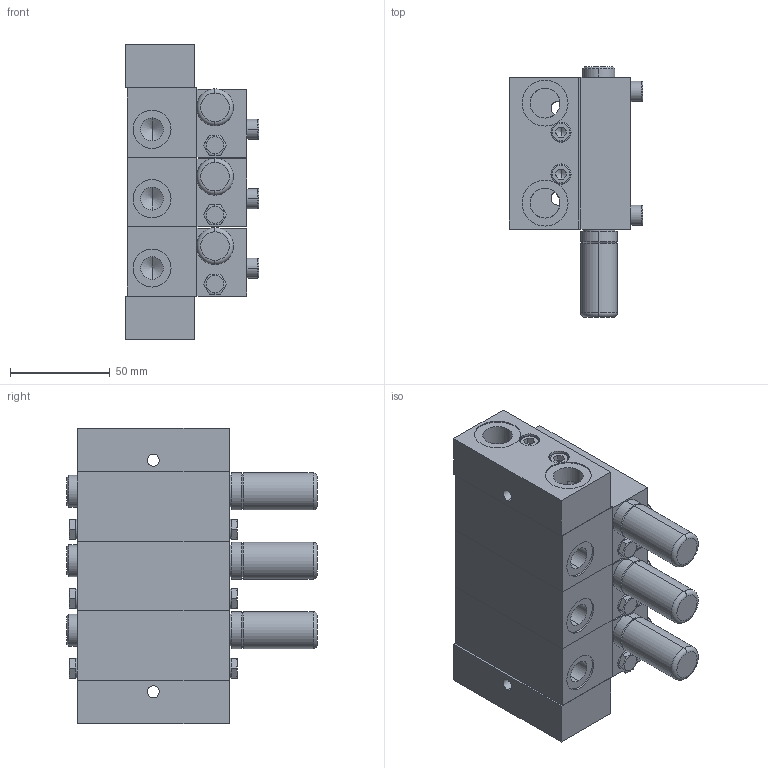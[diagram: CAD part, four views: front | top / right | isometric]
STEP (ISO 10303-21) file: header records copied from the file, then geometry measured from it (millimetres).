
FILE_DESCRIPTION((''),'2;1');
FILE_NAME('5010157_3D.stp','2017-05-31T13:25:09',(''),(''),'Mechanical Desktop 2008','Mechanical Desktop 2008',', , ');
FILE_SCHEMA(('AUTOMOTIVE_DESIGN { 1 2 10303 214 1 1 1 1 }'));
Length unit declared in the file: millimetre
Products named in the file (10): 5010157_3D; PART1; PART3; CYLINDER HEAD CAP SCREW - UNI 5931 - M 6 X  30; ~PART1; PART2; ~~PART1; CYLINDER HEAD CAP SCREW - UNI 5931 - M 6 X  25; ~~~PART1; PART4
Assembly tree (28 placements, depth 2):
  5010157_3D
    PART1  x3
    PART3  x6
    CYLINDER HEAD CAP SCREW - UNI 5931 - M 6 X  30  x6
    ~PART1  x3
    PART2  x3
    ~~PART1
    CYLINDER HEAD CAP SCREW - UNI 5931 - M 6 X  25  x2
    ~~~PART1
    PART4  x3
Bounding box: 67 x 125.3 x 147.9 mm (x, y, z)
Volume: 549197.6 mm3; surface area: 151637.6 mm2
Topology: 28 solids, 28 shells, 1007 faces, 2442 edges, 1546 vertices
Faces by surface type: plane 447, cylinder 292, cone 150, bspline 100, torus 18
Entity records: 10383 total; most frequent: CARTESIAN_POINT 2343, DIRECTION 1644, ORIENTED_EDGE 1582, EDGE_CURVE 791, AXIS2_PLACEMENT_3D 608, VERTEX_POINT 515, VECTOR 428, LINE 428
